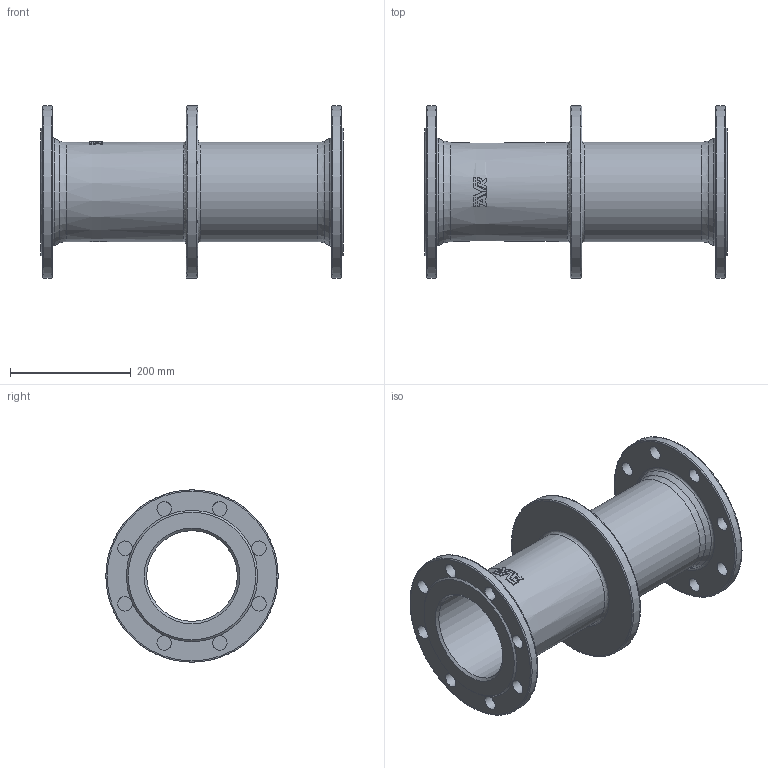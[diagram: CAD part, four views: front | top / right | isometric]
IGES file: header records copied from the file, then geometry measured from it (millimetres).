
Start section: SolidWorks IGES file using analytic representation for surfaces
Global section: file name: \\avksan2\techshare\PBM outline export from Enovia\O_712_6010_DN150_1_AA0.igs; native system: SolidWorks 2012; preprocessor: SolidWorks 2012; author: pbm; date: 190709.113107; units: millimetre
Bounding box: 500 x 285 x 285 mm (x, y, z)
Surface area: 763705.6 mm2 (no closed solid volume)
Topology: 0 solids, 0 shells, 90 faces, 546 edges, 496 vertices
Faces by surface type: revolution 45, bspline 45
